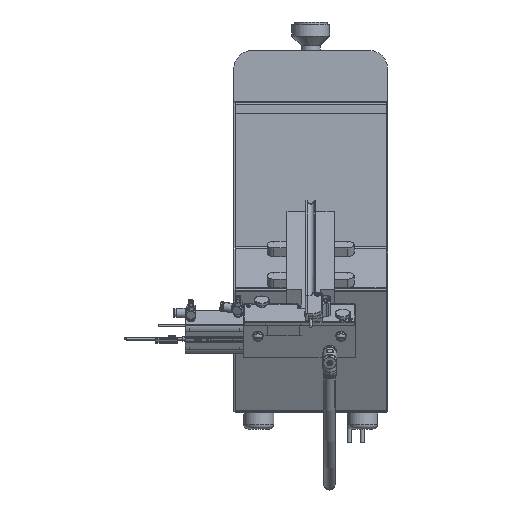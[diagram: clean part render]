
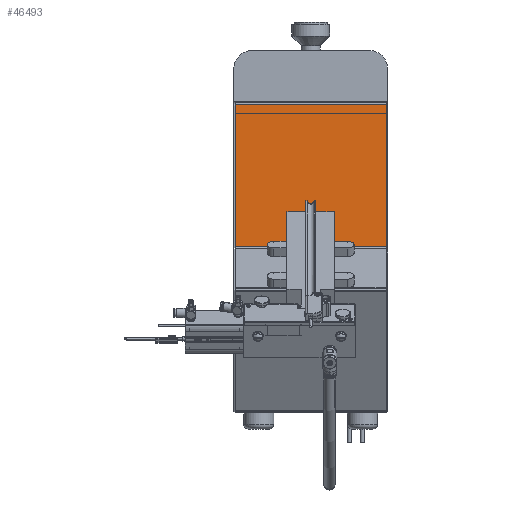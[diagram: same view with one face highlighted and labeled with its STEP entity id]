
A CAD part, front view. The second image highlights one B-rep face of the part: STEP entity #46493.
In plain terms, the highlighted planar face has unit normal (0, -1, 0).
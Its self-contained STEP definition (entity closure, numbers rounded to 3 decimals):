
#414=ELLIPSE('',#50186,4.619,4.);
#6059=FACE_BOUND('',#9931,.T.);
#7321=FACE_OUTER_BOUND('',#9930,.T.);
#9930=EDGE_LOOP('',(#36287,#36288,#36289,#36290));
#9931=EDGE_LOOP('',(#36291,#36292,#36293,#36294,#36295,#36296));
#13115=LINE('',#74317,#17134);
#13116=LINE('',#74320,#17135);
#13117=LINE('',#74322,#17136);
#13118=LINE('',#74323,#17137);
#13119=LINE('',#74328,#17138);
#13120=LINE('',#74330,#17139);
#13121=LINE('',#74332,#17140);
#13122=LINE('',#74334,#17141);
#13123=LINE('',#74335,#17142);
#17134=VECTOR('',#58693,160.);
#17135=VECTOR('',#58696,151.134);
#17136=VECTOR('',#58697,151.134);
#17137=VECTOR('',#58698,160.);
#17138=VECTOR('',#58701,10.);
#17139=VECTOR('',#58702,10.);
#17140=VECTOR('',#58703,10.);
#17141=VECTOR('',#58704,10.);
#17142=VECTOR('',#58705,10.);
#21510=VERTEX_POINT('',#74313);
#21511=VERTEX_POINT('',#74315);
#21512=VERTEX_POINT('',#74319);
#21513=VERTEX_POINT('',#74321);
#21514=VERTEX_POINT('',#74324);
#21515=VERTEX_POINT('',#74325);
#21516=VERTEX_POINT('',#74327);
#21517=VERTEX_POINT('',#74329);
#21518=VERTEX_POINT('',#74331);
#21519=VERTEX_POINT('',#74333);
#26883=EDGE_CURVE('',#21511,#21510,#13115,.T.);
#26884=EDGE_CURVE('',#21512,#21510,#13116,.T.);
#26885=EDGE_CURVE('',#21513,#21511,#13117,.T.);
#26886=EDGE_CURVE('',#21513,#21512,#13118,.T.);
#26887=EDGE_CURVE('',#21514,#21515,#414,.T.);
#26888=EDGE_CURVE('',#21515,#21516,#13119,.T.);
#26889=EDGE_CURVE('',#21516,#21517,#13120,.T.);
#26890=EDGE_CURVE('',#21517,#21518,#13121,.T.);
#26891=EDGE_CURVE('',#21518,#21519,#13122,.T.);
#26892=EDGE_CURVE('',#21519,#21514,#13123,.T.);
#36287=ORIENTED_EDGE('',*,*,#26884,.T.);
#36288=ORIENTED_EDGE('',*,*,#26883,.F.);
#36289=ORIENTED_EDGE('',*,*,#26885,.F.);
#36290=ORIENTED_EDGE('',*,*,#26886,.T.);
#36291=ORIENTED_EDGE('',*,*,#26887,.T.);
#36292=ORIENTED_EDGE('',*,*,#26888,.T.);
#36293=ORIENTED_EDGE('',*,*,#26889,.T.);
#36294=ORIENTED_EDGE('',*,*,#26890,.T.);
#36295=ORIENTED_EDGE('',*,*,#26891,.T.);
#36296=ORIENTED_EDGE('',*,*,#26892,.T.);
#44550=PLANE('',#50185);
#46493=ADVANCED_FACE('',(#7321,#6059),#44550,.F.);
#50185=AXIS2_PLACEMENT_3D('',#74318,#58694,#58695);
#50186=AXIS2_PLACEMENT_3D('',#74326,#58699,#58700);
#58693=DIRECTION('',(-1.,0.,0.));
#58694=DIRECTION('center_axis',(0.,1.,0.));
#58695=DIRECTION('ref_axis',(0.,0.,1.));
#58696=DIRECTION('',(0.,0.,-1.));
#58697=DIRECTION('',(0.,0.,-1.));
#58698=DIRECTION('',(-1.,0.,0.));
#58699=DIRECTION('center_axis',(0.,-1.,0.));
#58700=DIRECTION('ref_axis',(0.,0.,-1.));
#58701=DIRECTION('',(1.,0.,0.));
#58702=DIRECTION('',(0.,0.,-1.));
#58703=DIRECTION('',(-1.,0.,0.));
#58704=DIRECTION('',(0.,0.,1.));
#58705=DIRECTION('',(1.,0.,0.));
#74313=CARTESIAN_POINT('',(-80.,0.,175.866));
#74315=CARTESIAN_POINT('',(80.,0.,175.866));
#74317=CARTESIAN_POINT('',(80.,0.,175.866));
#74318=CARTESIAN_POINT('Origin',(80.,0.,175.866));
#74319=CARTESIAN_POINT('',(-80.,0.,327.));
#74320=CARTESIAN_POINT('',(-80.,0.,327.));
#74321=CARTESIAN_POINT('',(80.,0.,327.));
#74322=CARTESIAN_POINT('',(80.,0.,327.));
#74323=CARTESIAN_POINT('',(80.,0.,327.));
#74324=CARTESIAN_POINT('',(-3.873,0.,224.652));
#74325=CARTESIAN_POINT('',(3.873,0.,224.652));
#74326=CARTESIAN_POINT('Origin',(0.,0.,225.807));
#74327=CARTESIAN_POINT('',(5.1,0.,224.652));
#74328=CARTESIAN_POINT('',(37.45,0.,224.652));
#74329=CARTESIAN_POINT('',(5.1,0.,195.785));
#74330=CARTESIAN_POINT('',(5.1,0.,143.177));
#74331=CARTESIAN_POINT('',(-5.1,0.,195.785));
#74332=CARTESIAN_POINT('',(37.45,0.,195.785));
#74333=CARTESIAN_POINT('',(-5.1,0.,224.652));
#74334=CARTESIAN_POINT('',(-5.1,0.,143.177));
#74335=CARTESIAN_POINT('',(37.45,0.,224.652));
